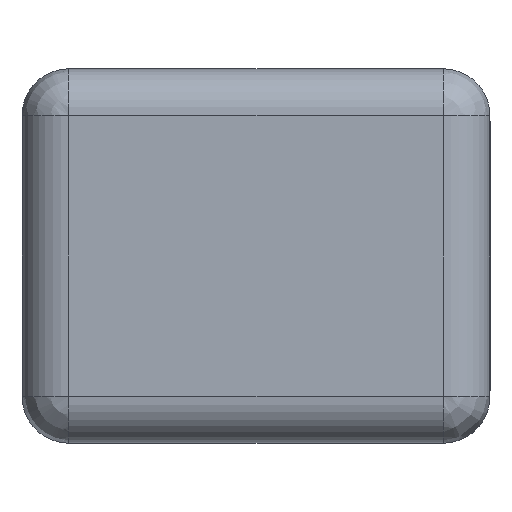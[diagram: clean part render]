
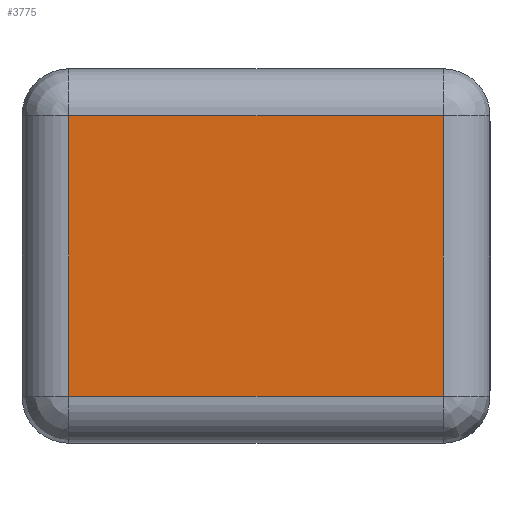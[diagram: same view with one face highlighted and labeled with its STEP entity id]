
A CAD part, front view. The second image highlights one B-rep face of the part: STEP entity #3775.
In plain terms, the highlighted planar face has unit normal (0, -1, 0).
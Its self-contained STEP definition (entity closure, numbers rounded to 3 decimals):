
#350=CARTESIAN_POINT('',(45.277,-67.4,-1.578));
#351=VERTEX_POINT('',#350);
#359=CARTESIAN_POINT('',(61.277,-67.4,-1.578));
#360=VERTEX_POINT('',#359);
#361=CARTESIAN_POINT('',(61.277,-67.4,-1.578));
#362=DIRECTION('',(-1.0,0.0,0.0));
#363=VECTOR('',#362,16.);
#364=LINE('',#361,#363);
#365=EDGE_CURVE('',#360,#351,#364,.T.);
#473=CARTESIAN_POINT('',(61.277,-67.4,-13.578));
#474=VERTEX_POINT('',#473);
#475=CARTESIAN_POINT('',(61.277,-67.4,-13.578));
#476=DIRECTION('',(0.0,0.0,1.0));
#477=VECTOR('',#476,12.);
#478=LINE('',#475,#477);
#479=EDGE_CURVE('',#474,#360,#478,.T.);
#588=CARTESIAN_POINT('',(45.277,-67.4,-13.578));
#589=VERTEX_POINT('',#588);
#590=CARTESIAN_POINT('',(45.277,-67.4,-13.578));
#591=DIRECTION('',(1.0,0.0,0.0));
#592=VECTOR('',#591,16.0);
#593=LINE('',#590,#592);
#594=EDGE_CURVE('',#589,#474,#593,.T.);
#703=CARTESIAN_POINT('',(45.277,-67.4,-1.578));
#704=DIRECTION('',(0.0,0.0,-1.0));
#705=VECTOR('',#704,12.);
#706=LINE('',#703,#705);
#707=EDGE_CURVE('',#351,#589,#706,.T.);
#3764=CARTESIAN_POINT('',(41.277,-67.4,2.022));
#3765=DIRECTION('',(0.0,-1.0,0.0));
#3766=DIRECTION('',(0.0,0.0,-1.0));
#3767=AXIS2_PLACEMENT_3D('',#3764,#3765,#3766);
#3768=PLANE('',#3767);
#3769=ORIENTED_EDGE('',*,*,#707,.T.);
#3770=ORIENTED_EDGE('',*,*,#594,.T.);
#3771=ORIENTED_EDGE('',*,*,#479,.T.);
#3772=ORIENTED_EDGE('',*,*,#365,.T.);
#3773=EDGE_LOOP('',(#3769,#3770,#3771,#3772));
#3774=FACE_OUTER_BOUND('',#3773,.T.);
#3775=ADVANCED_FACE('',(#3774),#3768,.T.);
